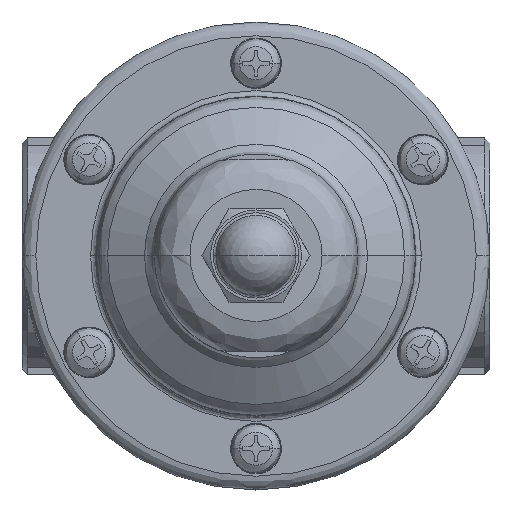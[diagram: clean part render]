
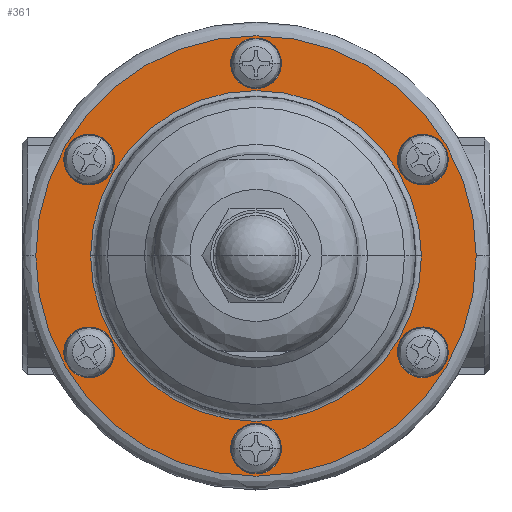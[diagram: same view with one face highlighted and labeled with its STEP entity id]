
A CAD part, top view. The second image highlights one B-rep face of the part: STEP entity #361.
In plain terms, the highlighted planar face has unit normal (0, 0, 1).
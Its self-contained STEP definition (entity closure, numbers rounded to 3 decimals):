
#361=ADVANCED_FACE('',(#852,#853,#854,#855,#856,#857,#858,#859),#851,.F.);
#851=PLANE('',#4653);
#852=FACE_OUTER_BOUND('',#4654,.T.);
#853=FACE_BOUND('',#4655,.T.);
#854=FACE_BOUND('',#4656,.T.);
#855=FACE_BOUND('',#4657,.T.);
#856=FACE_BOUND('',#4658,.T.);
#857=FACE_BOUND('',#4659,.T.);
#858=FACE_BOUND('',#4660,.T.);
#859=FACE_BOUND('',#4661,.T.);
#4650=CARTESIAN_POINT('',(90.,-79.282,1.5));
#4651=DIRECTION('',(0.,0.,-1.));
#4652=DIRECTION('',(-1.,0.,0.));
#4653=AXIS2_PLACEMENT_3D('',#4650,#4651,#4652);
#4654=EDGE_LOOP('',(#7910,#7911));
#4655=EDGE_LOOP('',(#7912,#7913));
#4656=EDGE_LOOP('',(#7914,#7915));
#4657=EDGE_LOOP('',(#7916,#7917));
#4658=EDGE_LOOP('',(#7918,#7919));
#4659=EDGE_LOOP('',(#7920,#7921));
#4660=EDGE_LOOP('',(#7922,#7923));
#4661=EDGE_LOOP('',(#7924,#7925));
#7910=ORIENTED_EDGE('',*,*,#9815,.F.);
#7911=ORIENTED_EDGE('',*,*,#9816,.F.);
#7912=ORIENTED_EDGE('',*,*,#9817,.T.);
#7913=ORIENTED_EDGE('',*,*,#9818,.T.);
#7914=ORIENTED_EDGE('',*,*,#9819,.T.);
#7915=ORIENTED_EDGE('',*,*,#9820,.T.);
#7916=ORIENTED_EDGE('',*,*,#9821,.T.);
#7917=ORIENTED_EDGE('',*,*,#9822,.T.);
#7918=ORIENTED_EDGE('',*,*,#9823,.T.);
#7919=ORIENTED_EDGE('',*,*,#9824,.T.);
#7920=ORIENTED_EDGE('',*,*,#9825,.T.);
#7921=ORIENTED_EDGE('',*,*,#9826,.T.);
#7922=ORIENTED_EDGE('',*,*,#9827,.T.);
#7923=ORIENTED_EDGE('',*,*,#9828,.T.);
#7924=ORIENTED_EDGE('',*,*,#9829,.T.);
#7925=ORIENTED_EDGE('',*,*,#9830,.T.);
#9815=EDGE_CURVE('',#11095,#11096,#11097,.T.);
#9816=EDGE_CURVE('',#11096,#11095,#11103,.T.);
#9817=EDGE_CURVE('',#11109,#11110,#11111,.T.);
#9818=EDGE_CURVE('',#11110,#11109,#11117,.T.);
#9819=EDGE_CURVE('',#11123,#11124,#11125,.T.);
#9820=EDGE_CURVE('',#11124,#11123,#11131,.T.);
#9821=EDGE_CURVE('',#11137,#11138,#11139,.T.);
#9822=EDGE_CURVE('',#11138,#11137,#11145,.T.);
#9823=EDGE_CURVE('',#11151,#11152,#11153,.T.);
#9824=EDGE_CURVE('',#11152,#11151,#11159,.T.);
#9825=EDGE_CURVE('',#11165,#11166,#11167,.T.);
#9826=EDGE_CURVE('',#11166,#11165,#11173,.T.);
#9827=EDGE_CURVE('',#11179,#11180,#11181,.T.);
#9828=EDGE_CURVE('',#11180,#11179,#11187,.T.);
#9829=EDGE_CURVE('',#11193,#11194,#11195,.T.);
#9830=EDGE_CURVE('',#11194,#11193,#11201,.T.);
#11095=VERTEX_POINT('',#17342);
#11096=VERTEX_POINT('',#17343);
#11097=CIRCLE('',#17347,40.);
#11103=CIRCLE('',#17351,40.);
#11109=VERTEX_POINT('',#17352);
#11110=VERTEX_POINT('',#17353);
#11111=CIRCLE('',#17357,2.75);
#11117=CIRCLE('',#17361,2.75);
#11123=VERTEX_POINT('',#17362);
#11124=VERTEX_POINT('',#17363);
#11125=CIRCLE('',#17367,2.75);
#11131=CIRCLE('',#17371,2.75);
#11137=VERTEX_POINT('',#17372);
#11138=VERTEX_POINT('',#17373);
#11139=CIRCLE('',#17377,2.75);
#11145=CIRCLE('',#17381,2.75);
#11151=VERTEX_POINT('',#17382);
#11152=VERTEX_POINT('',#17383);
#11153=CIRCLE('',#17387,2.75);
#11159=CIRCLE('',#17391,2.75);
#11165=VERTEX_POINT('',#17392);
#11166=VERTEX_POINT('',#17393);
#11167=CIRCLE('',#17397,2.75);
#11173=CIRCLE('',#17401,2.75);
#11179=VERTEX_POINT('',#17402);
#11180=VERTEX_POINT('',#17403);
#11181=CIRCLE('',#17407,2.75);
#11187=CIRCLE('',#17411,2.75);
#11193=VERTEX_POINT('',#17412);
#11194=VERTEX_POINT('',#17413);
#11195=CIRCLE('',#17417,30.042);
#11201=CIRCLE('',#17421,30.042);
#17342=CARTESIAN_POINT('',(40.,0.,1.5));
#17343=CARTESIAN_POINT('',(-40.,0.,1.5));
#17344=CARTESIAN_POINT('',(0.,0.,1.5));
#17345=DIRECTION('',(0.,0.,-1.));
#17346=DIRECTION('',(-1.,0.,0.));
#17347=AXIS2_PLACEMENT_3D('',#17344,#17345,#17346);
#17348=CARTESIAN_POINT('',(0.,0.,1.5));
#17349=DIRECTION('',(0.,0.,-1.));
#17350=DIRECTION('',(-1.,0.,0.));
#17351=AXIS2_PLACEMENT_3D('',#17348,#17349,#17350);
#17352=CARTESIAN_POINT('',(-27.777,-17.625,1.5));
#17353=CARTESIAN_POINT('',(-33.277,-17.625,1.5));
#17354=CARTESIAN_POINT('',(-30.527,-17.625,1.5));
#17355=DIRECTION('',(0.,0.,-1.));
#17356=DIRECTION('',(1.,0.,0.));
#17357=AXIS2_PLACEMENT_3D('',#17354,#17355,#17356);
#17358=CARTESIAN_POINT('',(-30.527,-17.625,1.5));
#17359=DIRECTION('',(0.,0.,-1.));
#17360=DIRECTION('',(1.,0.,0.));
#17361=AXIS2_PLACEMENT_3D('',#17358,#17359,#17360);
#17362=CARTESIAN_POINT('',(-27.777,17.625,1.5));
#17363=CARTESIAN_POINT('',(-33.277,17.625,1.5));
#17364=CARTESIAN_POINT('',(-30.527,17.625,1.5));
#17365=DIRECTION('',(0.,0.,-1.));
#17366=DIRECTION('',(1.,0.,0.));
#17367=AXIS2_PLACEMENT_3D('',#17364,#17365,#17366);
#17368=CARTESIAN_POINT('',(-30.527,17.625,1.5));
#17369=DIRECTION('',(0.,0.,-1.));
#17370=DIRECTION('',(1.,0.,0.));
#17371=AXIS2_PLACEMENT_3D('',#17368,#17369,#17370);
#17372=CARTESIAN_POINT('',(2.75,35.25,1.5));
#17373=CARTESIAN_POINT('',(-2.75,35.25,1.5));
#17374=CARTESIAN_POINT('',(0.,35.25,1.5));
#17375=DIRECTION('',(0.,0.,-1.));
#17376=DIRECTION('',(1.,0.,0.));
#17377=AXIS2_PLACEMENT_3D('',#17374,#17375,#17376);
#17378=CARTESIAN_POINT('',(0.,35.25,1.5));
#17379=DIRECTION('',(0.,0.,-1.));
#17380=DIRECTION('',(1.,0.,0.));
#17381=AXIS2_PLACEMENT_3D('',#17378,#17379,#17380);
#17382=CARTESIAN_POINT('',(33.277,17.625,1.5));
#17383=CARTESIAN_POINT('',(27.777,17.625,1.5));
#17384=CARTESIAN_POINT('',(30.527,17.625,1.5));
#17385=DIRECTION('',(0.,0.,-1.));
#17386=DIRECTION('',(1.,0.,0.));
#17387=AXIS2_PLACEMENT_3D('',#17384,#17385,#17386);
#17388=CARTESIAN_POINT('',(30.527,17.625,1.5));
#17389=DIRECTION('',(0.,0.,-1.));
#17390=DIRECTION('',(1.,0.,0.));
#17391=AXIS2_PLACEMENT_3D('',#17388,#17389,#17390);
#17392=CARTESIAN_POINT('',(33.277,-17.625,1.5));
#17393=CARTESIAN_POINT('',(27.777,-17.625,1.5));
#17394=CARTESIAN_POINT('',(30.527,-17.625,1.5));
#17395=DIRECTION('',(0.,0.,-1.));
#17396=DIRECTION('',(1.,0.,0.));
#17397=AXIS2_PLACEMENT_3D('',#17394,#17395,#17396);
#17398=CARTESIAN_POINT('',(30.527,-17.625,1.5));
#17399=DIRECTION('',(0.,0.,-1.));
#17400=DIRECTION('',(1.,0.,0.));
#17401=AXIS2_PLACEMENT_3D('',#17398,#17399,#17400);
#17402=CARTESIAN_POINT('',(2.75,-35.25,1.5));
#17403=CARTESIAN_POINT('',(-2.75,-35.25,1.5));
#17404=CARTESIAN_POINT('',(0.,-35.25,1.5));
#17405=DIRECTION('',(0.,0.,-1.));
#17406=DIRECTION('',(1.,0.,0.));
#17407=AXIS2_PLACEMENT_3D('',#17404,#17405,#17406);
#17408=CARTESIAN_POINT('',(0.,-35.25,1.5));
#17409=DIRECTION('',(0.,0.,-1.));
#17410=DIRECTION('',(1.,0.,0.));
#17411=AXIS2_PLACEMENT_3D('',#17408,#17409,#17410);
#17412=CARTESIAN_POINT('',(-30.042,0.,1.5));
#17413=CARTESIAN_POINT('',(30.042,0.,1.5));
#17414=CARTESIAN_POINT('',(0.,0.,1.5));
#17415=DIRECTION('',(0.,0.,-1.));
#17416=DIRECTION('',(-1.,0.,0.));
#17417=AXIS2_PLACEMENT_3D('',#17414,#17415,#17416);
#17418=CARTESIAN_POINT('',(0.,0.,1.5));
#17419=DIRECTION('',(0.,0.,-1.));
#17420=DIRECTION('',(-1.,0.,0.));
#17421=AXIS2_PLACEMENT_3D('',#17418,#17419,#17420);
